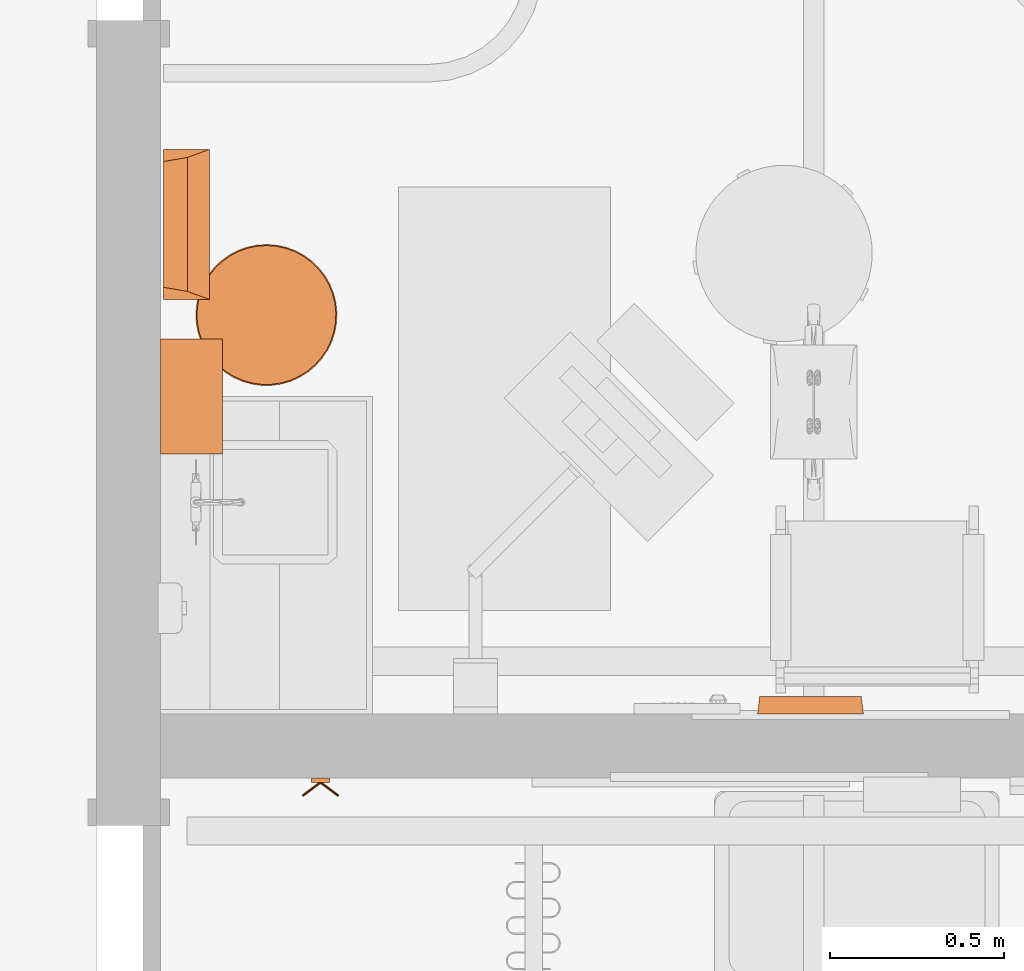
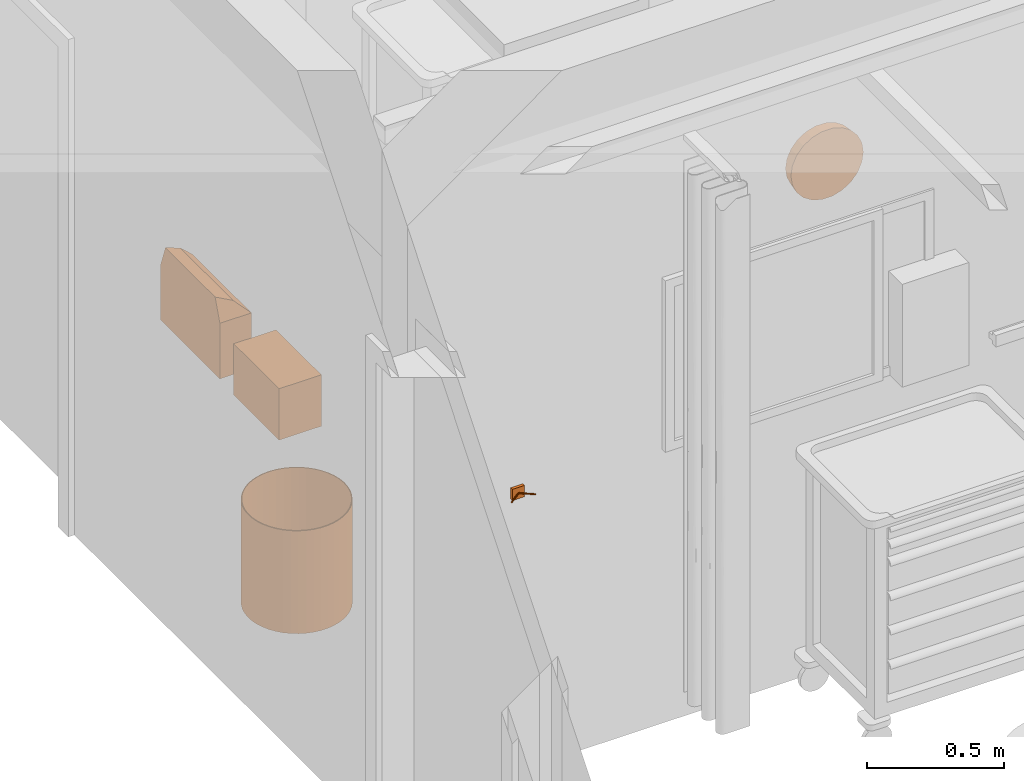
# One storey, part 131 of 142: 5 proxies.
"""IFC2X3 building model written with IfcOpenShell, lengths in feet."""

from ifc_helpers import new_model, entity, si_unit, converted_unit, derived_unit, direction, frame, frame_2d, origin, origin_2d_with_axis, place, context, subcontext, project, spatial, rectangle, circle, hollow_circle, extrude, faceted_brep, source, transform, mapped, type_object, type_shapes, element, save


model = new_model("IFC2X3")

# Units and contexts
model_context = context("Model", 3, precision=0.0001, world=origin(), true_north=direction((6.12303176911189e-17, 1.0)))
body_context = subcontext(model_context, "Body", "Model", "MODEL_VIEW")
ifc_project = project(units=[converted_unit("LENGTHUNIT", "FOOT", entity("IfcRatioMeasure", 0.3048), si_unit("LENGTHUNIT", "METRE"), dimensions=[1, 0, 0, 0, 0, 0, 0]), converted_unit("AREAUNIT", "SQUARE FOOT", entity("IfcRatioMeasure", 0.09290304), si_unit("AREAUNIT", "SQUARE_METRE"), dimensions=[2, 0, 0, 0, 0, 0, 0]), converted_unit("VOLUMEUNIT", "CUBIC FOOT", entity("IfcRatioMeasure", 0.028316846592), si_unit("VOLUMEUNIT", "CUBIC_METRE"), dimensions=[3, 0, 0, 0, 0, 0, 0]), converted_unit("PLANEANGLEUNIT", "DEGREE", entity("IfcRatioMeasure", 0.0174532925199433), si_unit("PLANEANGLEUNIT", "RADIAN"), dimensions=[0, 0, 0, 0, 0, 0, 0]), si_unit("MASSUNIT", "GRAM", prefix="KILO"), derived_unit("MASSDENSITYUNIT", [(si_unit("MASSUNIT", "GRAM", prefix="KILO"), 1), (si_unit("LENGTHUNIT", "METRE"), -3)]), si_unit("TIMEUNIT", "SECOND"), si_unit("FREQUENCYUNIT", "HERTZ"), si_unit("THERMODYNAMICTEMPERATUREUNIT", "DEGREE_CELSIUS"), derived_unit("THERMALTRANSMITTANCEUNIT", [(si_unit("MASSUNIT", "GRAM", prefix="KILO"), 1), (si_unit("THERMODYNAMICTEMPERATUREUNIT", "KELVIN"), -1), (si_unit("TIMEUNIT", "SECOND"), -3)]), derived_unit("VOLUMETRICFLOWRATEUNIT", [(si_unit("LENGTHUNIT", "METRE"), 3), (si_unit("TIMEUNIT", "SECOND"), -1)]), si_unit("ELECTRICCURRENTUNIT", "AMPERE"), si_unit("ELECTRICVOLTAGEUNIT", "VOLT"), si_unit("POWERUNIT", "WATT"), si_unit("FORCEUNIT", "NEWTON"), si_unit("ILLUMINANCEUNIT", "LUX"), si_unit("LUMINOUSFLUXUNIT", "LUMEN"), si_unit("LUMINOUSINTENSITYUNIT", "CANDELA"), derived_unit("USERDEFINED", [(si_unit("MASSUNIT", "GRAM", prefix="KILO"), -1), (si_unit("LENGTHUNIT", "METRE"), -2), (si_unit("TIMEUNIT", "SECOND"), 3), (si_unit("LUMINOUSFLUXUNIT", "LUMEN"), 1)]), derived_unit("LINEARVELOCITYUNIT", [(si_unit("LENGTHUNIT", "METRE"), 1), (si_unit("TIMEUNIT", "SECOND"), -1)]), si_unit("PRESSUREUNIT", "PASCAL"), derived_unit("USERDEFINED", [(si_unit("LENGTHUNIT", "METRE"), -2), (si_unit("MASSUNIT", "GRAM", prefix="KILO"), 1), (si_unit("TIMEUNIT", "SECOND"), -2)])], contexts=[model_context])

# Site, building, storey, space
site_placement = place(None, origin())
site = spatial("IfcSite", under=ifc_project, at=site_placement, Name="Default", CompositionType="ELEMENT")
building_placement = place(site_placement, origin())
building = spatial("IfcBuilding", under=site, at=building_placement, Name="OUTPATIENT / PACT CLINIC (Ch. 265)", CompositionType="ELEMENT")
storey_placement = place(building_placement, origin())
storey = spatial("IfcBuildingStorey", under=building, at=storey_placement, Name="LEVEL 1", CompositionType="ELEMENT", Elevation=0.0)
space_1_placement = place(storey_placement, origin())
space_1 = spatial("IfcSpace", under=storey, at=space_1_placement, Name="EXPA1", CompositionType="ELEMENT", InteriorOrExteriorSpace="INTERNAL")

# Proxies
building_element_proxy_type_1 = type_object("IfcBuildingElementProxyType", Name="F2000 - Basket, Wastepaper", PredefinedType="NOTDEFINED")
shared_shape_1 = source(origin(), body_context, "Body", "SweptSolid", [
    extrude(circle(Radius=0.666666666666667, at=frame_2d((0.0, -1.07702971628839e-15), x_axis=(1.0, 0.0))), origin(), (0.0, 0.0, 1.0), 0.0104166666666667),
    extrude(hollow_circle(Radius=0.666666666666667, WallThickness=0.0104166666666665, at=frame_2d((0.0, -1.07702971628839e-15), x_axis=(1.0, 0.0))), frame((0.0, 0.0, 0.0104166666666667)), (0.0, 0.0, 1.0), 1.48958333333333),
])
type_shapes(building_element_proxy_type_1, [shared_shape_1])
proxy_1_placement = place(space_1_placement, frame((436.254976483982, -889.255552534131, 0.0), z_axis=(0.0, 0.0, 1.0), x_axis=(0.0, 1.0, 0.0)))
element("IfcBuildingElementProxy", 1, at=proxy_1_placement, inside=space_1, type_object=building_element_proxy_type_1, Name="F2000 - Basket, Wastepaper:F2000 - Basket, Wastepaper", ObjectType="F2000 - Basket, Wastepaper", context=body_context, shape_type="MappedRepresentation", body=[
    mapped(shared_shape_1, transform((0.0, 0.0, 0.0), scale=1.0)),
])
building_element_proxy_type_2 = type_object("IfcBuildingElementProxyType", Name="A5108 - Waste Disposal Unit, Sharps 17\"x 13\"", PredefinedType="NOTDEFINED")
shared_shape_2 = source(origin(), body_context, "Body", "Brep", [
    faceted_brep([(0.70833333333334, 0.0, 0.0), (-0.708333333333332, 0.0, 0.0), (-0.708333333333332, 0.437500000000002, 0.0), (0.70833333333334, 0.437500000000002, 0.0), (0.70833333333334, 0.437500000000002, 0.810989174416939), (0.70833333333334, 0.0025667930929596, 0.810989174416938), (0.70833333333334, 0.0, 0.808422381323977), (-0.708333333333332, 0.437500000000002, 0.810989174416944), (-0.594042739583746, 0.437500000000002, 1.125), (0.594042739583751, 0.437500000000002, 1.125), (-0.708333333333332, 0.0, 0.808422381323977), (-0.708333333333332, 0.00256679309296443, 0.810989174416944), (0.632497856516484, 0.210923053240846, 1.01934543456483), (-0.632497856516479, 0.210923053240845, 1.01934543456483)], [[[0, 1, 2, 3]], [[0, 3, 4, 5, 6]], [[3, 2, 7, 8, 9, 4]], [[2, 1, 10, 11, 7]], [[1, 0, 6, 10]], [[10, 6, 5, 12, 13, 11]], [[12, 9, 8, 13]], [[5, 4, 9, 12]], [[8, 7, 11, 13]]]),
])
type_shapes(building_element_proxy_type_2, [shared_shape_2])
proxy_2_placement = place(storey_placement, frame((435.718518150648, -888.399555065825, 3.5), z_axis=(0.0, 0.0, 1.0), x_axis=(0.0, 1.0, 0.0)))
element("IfcBuildingElementProxy", 2, at=proxy_2_placement, inside=storey, type_object=building_element_proxy_type_2, Name="A5108 - Waste Disposal Unit, Sharps1:A5108 - Waste Disposal Unit, Sharps 17\"x 13\"", ObjectType="A5108 - Waste Disposal Unit, Sharps 17\"x 13\"", context=body_context, shape_type="MappedRepresentation", body=[
    mapped(shared_shape_2, transform((0.0, 0.0, 0.0), scale=1.0)),
])
building_element_proxy_type_3 = type_object("IfcBuildingElementProxyType", Name="A5080 - Dispenser, Paper Towel", PredefinedType="NOTDEFINED")
shared_shape_3 = source(origin(), body_context, "Body", "SweptSolid", [
    extrude(rectangle(XDim=0.58333333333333, YDim=1.08333333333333, at=frame_2d((9.99200722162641e-16, 0.0), x_axis=(1.0, 0.0))), frame((0.0, -0.291666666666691, 0.0), z_axis=(0.0, 0.0, 1.0), x_axis=(0.0, 1.0, 0.0)), (0.0, 0.0, 1.0), 0.75),
])
type_shapes(building_element_proxy_type_3, [shared_shape_3])
proxy_3_placement = place(space_1_placement, frame((435.254976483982, -890.024555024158, 3.5), z_axis=(0.0, 0.0, 1.0), x_axis=(0.0, 1.0, 0.0)))
element("IfcBuildingElementProxy", 3, at=proxy_3_placement, inside=space_1, type_object=building_element_proxy_type_3, Name="A5080 - Dispenser, Paper Towel:A5080 - Dispenser, Paper Towel", ObjectType="A5080 - Dispenser, Paper Towel", context=body_context, shape_type="MappedRepresentation", body=[
    mapped(shared_shape_3, transform((0.0, 0.0, 0.0), scale=1.0)),
])
building_element_proxy_type_4 = type_object("IfcBuildingElementProxyType", Name="F3200 - Clock, Battery, 12in Dia", PredefinedType="NOTDEFINED")
shared_shape_4 = source(origin(), body_context, "Body", "Brep", [
    faceted_brep([(0.0527623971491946, -0.166666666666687, -0.0087350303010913), (0.143371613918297, -0.166666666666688, 0.0607918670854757), (0.212898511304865, -0.16666666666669, 0.151401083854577), (0.256604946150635, -0.166666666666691, 0.256917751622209), (0.271512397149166, -0.166666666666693, 0.370151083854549), (0.256604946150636, -0.166666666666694, 0.483384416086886), (0.212898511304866, -0.166666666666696, 0.588901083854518), (0.143371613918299, -0.166666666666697, 0.67951030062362), (0.052762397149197, -0.166666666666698, 0.749037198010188), (-0.0527542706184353, -0.166666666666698, 0.792743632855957), (-0.165987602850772, -0.166666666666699, 0.807651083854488), (-0.279220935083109, -0.166666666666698, 0.792743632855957), (-0.384737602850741, -0.166666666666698, 0.749037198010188), (-0.475346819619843, -0.166666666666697, 0.679510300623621), (-0.544873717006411, -0.166666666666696, 0.588901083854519), (-0.588580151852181, -0.166666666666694, 0.483384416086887), (-0.603487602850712, -0.166666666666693, 0.37015108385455), (-0.588580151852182, -0.166666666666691, 0.256917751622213), (-0.544873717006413, -0.16666666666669, 0.151401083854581), (-0.475346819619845, -0.166666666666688, 0.0607918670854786), (-0.384737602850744, -0.166666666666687, -0.0087350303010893), (-0.279220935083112, -0.166666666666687, -0.052441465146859), (-0.165987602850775, -0.166666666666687, -0.0673489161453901), (-0.0527542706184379, -0.166666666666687, -0.0524414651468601), (0.256604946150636, -0.145833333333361, 0.483384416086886), (0.271512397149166, -0.145833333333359, 0.370151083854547), (0.256604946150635, -0.145833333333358, 0.256917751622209), (0.212898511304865, -0.145833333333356, 0.151401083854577), (0.143371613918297, -0.145833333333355, 0.0607918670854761), (0.0527623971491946, -0.145833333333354, -0.00873503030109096), (-0.0527542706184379, -0.145833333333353, -0.0524414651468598), (-0.165987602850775, -0.145833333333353, -0.0673489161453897), (-0.279220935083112, -0.145833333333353, -0.0524414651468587), (-0.384737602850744, -0.145833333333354, -0.00873503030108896), (-0.475346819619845, -0.145833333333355, 0.060791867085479), (-0.544873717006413, -0.145833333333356, 0.151401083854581), (-0.588580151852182, -0.145833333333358, 0.256917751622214), (-0.603487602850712, -0.145833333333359, 0.37015108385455), (-0.588580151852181, -0.145833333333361, 0.483384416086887), (-0.544873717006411, -0.145833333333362, 0.588901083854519), (-0.475346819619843, -0.145833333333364, 0.679510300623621), (-0.384737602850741, -0.145833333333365, 0.749037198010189), (-0.279220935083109, -0.145833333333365, 0.792743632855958), (-0.165987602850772, -0.145833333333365, 0.807651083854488), (-0.0527542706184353, -0.145833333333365, 0.792743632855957), (0.052762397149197, -0.145833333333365, 0.749037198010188), (0.143371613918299, -0.145833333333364, 0.67951030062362), (0.212898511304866, -0.145833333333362, 0.588901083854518)], [[[0, 1, 2, 3, 4, 5, 6, 7, 8, 9, 10, 11, 12, 13, 14, 15, 16, 17, 18, 19, 20, 21, 22, 23]], [[24, 25, 26, 27, 28, 29, 30, 31, 32, 33, 34, 35, 36, 37, 38, 39, 40, 41, 42, 43, 44, 45, 46, 47]], [[36, 17, 16, 37]], [[35, 18, 17, 36]], [[20, 19, 34, 33]], [[35, 34, 19, 18]], [[21, 20, 33, 32]], [[22, 21, 32, 31]], [[30, 23, 22, 31]], [[29, 0, 23, 30]], [[2, 1, 28, 27]], [[29, 28, 1, 0]], [[3, 2, 27, 26]], [[4, 3, 26, 25]], [[24, 5, 4, 25]], [[47, 6, 5, 24]], [[8, 7, 46, 45]], [[47, 46, 7, 6]], [[9, 8, 45, 44]], [[10, 9, 44, 43]], [[11, 10, 43, 42]], [[12, 11, 42, 41]], [[14, 39, 38, 15]], [[15, 38, 37, 16]], [[12, 41, 40, 13]], [[40, 39, 14, 13]]]),
    faceted_brep([(-0.493417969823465, 0.0, -0.00772370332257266), (-0.586614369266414, 0.0, 0.0998306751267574), (-0.165987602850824, 0.0, 0.370151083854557), (-0.373695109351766, 0.0, -0.0846649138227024), (-0.645734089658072, 0.0, 0.229284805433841), (-0.665987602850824, 0.0, 0.370151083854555), (-0.645734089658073, 0.0, 0.51101736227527), (-0.586614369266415, 0.0, 0.640471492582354), (-0.493417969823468, 0.0, 0.748025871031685), (-0.373695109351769, 0.0, 0.824967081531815), (-0.237145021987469, 0.0, 0.865061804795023), (-0.0948301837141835, 0.0, 0.865061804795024), (0.0417199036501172, 0.0, 0.824967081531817), (0.161442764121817, 0.0, 0.748025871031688), (0.254639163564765, 0.0, 0.640471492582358), (0.313758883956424, 0.0, 0.511017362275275), (0.334012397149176, 0.0, 0.370151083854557), (0.313758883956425, 0.0, 0.229284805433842), (0.254639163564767, 0.0, 0.0998306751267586), (0.161442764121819, 0.0, -0.00772370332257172), (0.0417199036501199, 0.0, -0.0846649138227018), (-0.0948301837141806, 0.0, -0.124759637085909), (-0.237145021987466, 0.0, -0.124759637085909), (-0.165987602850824, -0.145833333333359, 0.370151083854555), (-0.534036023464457, -0.145833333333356, 0.133620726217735), (-0.452489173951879, -0.145833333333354, 0.0395106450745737), (-0.585765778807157, -0.145833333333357, 0.246893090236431), (-0.347731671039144, -0.145833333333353, -0.0278129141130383), (-0.228250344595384, -0.145833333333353, -0.0628957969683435), (-0.603487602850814, -0.145833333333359, 0.370151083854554), (-0.103724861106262, -0.145833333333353, -0.0628957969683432), (0.0157564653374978, -0.145833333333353, -0.0278129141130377), (0.120513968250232, -0.145833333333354, 0.0395106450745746), (0.20206081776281, -0.145833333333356, 0.133620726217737), (0.253790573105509, -0.145833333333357, 0.246893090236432), (0.271512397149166, -0.145833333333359, 0.370151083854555), (-0.585765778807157, -0.145833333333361, 0.493409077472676), (-0.534036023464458, -0.145833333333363, 0.606681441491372), (-0.452489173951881, -0.145833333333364, 0.700791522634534), (-0.347731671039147, -0.145833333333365, 0.768115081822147), (-0.228250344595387, -0.145833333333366, 0.803197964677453), (0.253790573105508, -0.145833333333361, 0.49340907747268), (0.202060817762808, -0.145833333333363, 0.606681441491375), (0.12051396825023, -0.145833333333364, 0.700791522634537), (0.0157564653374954, -0.145833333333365, 0.768115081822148), (-0.103724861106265, -0.145833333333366, 0.803197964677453), (0.253790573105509, -0.166666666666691, 0.246893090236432), (0.271512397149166, -0.166666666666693, 0.370151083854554), (0.20206081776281, -0.166666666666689, 0.133620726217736), (-0.103724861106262, -0.166666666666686, -0.0628957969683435), (0.0157564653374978, -0.166666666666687, -0.0278129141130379), (0.120513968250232, -0.166666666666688, 0.0395106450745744), (-0.228250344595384, -0.166666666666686, -0.0628957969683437), (-0.452489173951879, -0.166666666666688, 0.0395106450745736), (-0.347731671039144, -0.166666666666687, -0.0278129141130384), (-0.603487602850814, -0.166666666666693, 0.370151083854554), (-0.585765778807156, -0.166666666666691, 0.246893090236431), (-0.534036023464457, -0.166666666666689, 0.133620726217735), (-0.585765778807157, -0.166666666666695, 0.493409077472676), (-0.534036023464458, -0.166666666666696, 0.606681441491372), (-0.347731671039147, -0.166666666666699, 0.768115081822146), (-0.452489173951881, -0.166666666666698, 0.700791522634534), (-0.228250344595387, -0.166666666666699, 0.803197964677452), (-0.103724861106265, -0.166666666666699, 0.803197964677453), (0.0157564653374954, -0.166666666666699, 0.768115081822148), (0.12051396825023, -0.166666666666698, 0.700791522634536), (0.253790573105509, -0.166666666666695, 0.493409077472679), (0.202060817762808, -0.166666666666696, 0.606681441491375), (-0.62574465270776, -0.166666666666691, 0.235154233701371), (-0.64515426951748, -0.166666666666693, 0.370151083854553), (-0.569088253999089, -0.166666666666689, 0.111094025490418), (-0.479775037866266, -0.166666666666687, 0.00802107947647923), (-0.365040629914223, -0.166666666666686, -0.0657142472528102), (-0.234180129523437, -0.166666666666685, -0.104138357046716), (-0.0977950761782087, -0.166666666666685, -0.104138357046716), (0.0330654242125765, -0.166666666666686, -0.0657142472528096), (0.147799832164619, -0.166666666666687, 0.00802107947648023), (0.237113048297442, -0.166666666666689, 0.11109402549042), (0.293769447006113, -0.166666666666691, 0.235154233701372), (0.313179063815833, -0.166666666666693, 0.370151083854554), (0.293769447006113, -0.166666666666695, 0.50514793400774), (0.237113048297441, -0.166666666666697, 0.629208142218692), (0.147799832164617, -0.166666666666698, 0.732281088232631), (0.0330654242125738, -0.1666666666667, 0.80601641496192), (-0.0977950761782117, -0.1666666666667, 0.844440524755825), (-0.23418012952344, -0.1666666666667, 0.844440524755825), (-0.365040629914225, -0.1666666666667, 0.806016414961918), (-0.479775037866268, -0.166666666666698, 0.732281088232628), (-0.569088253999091, -0.166666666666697, 0.629208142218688), (-0.625744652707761, -0.166666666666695, 0.505147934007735)], [[[0, 1, 2]], [[0, 2, 3]], [[4, 2, 1]], [[2, 4, 5]], [[5, 6, 2]], [[2, 6, 7]], [[2, 7, 8]], [[2, 8, 9]], [[9, 10, 2]], [[11, 2, 10]], [[2, 11, 12]], [[2, 12, 13]], [[14, 2, 13]], [[2, 14, 15]], [[15, 16, 2]], [[2, 16, 17]], [[2, 17, 18]], [[18, 19, 2]], [[19, 20, 2]], [[21, 2, 20]], [[2, 21, 22]], [[22, 3, 2]], [[23, 24, 25]], [[24, 23, 26]], [[27, 23, 25]], [[23, 27, 28]], [[29, 26, 23]], [[28, 30, 23]], [[31, 23, 30]], [[23, 31, 32]], [[23, 32, 33]], [[33, 34, 23]], [[34, 35, 23]], [[23, 36, 29]], [[37, 36, 23]], [[38, 37, 23]], [[39, 38, 23]], [[23, 40, 39]], [[23, 35, 41]], [[41, 42, 23]], [[43, 23, 42]], [[43, 44, 23]], [[44, 45, 23]], [[40, 23, 45]], [[46, 47, 35, 34]], [[46, 34, 33, 48]], [[31, 30, 49, 50]], [[32, 31, 50, 51]], [[51, 48, 33, 32]], [[30, 28, 52, 49]], [[27, 25, 53, 54]], [[28, 27, 54, 52]], [[29, 55, 56, 26]], [[26, 56, 57, 24]], [[24, 57, 53, 25]], [[55, 29, 36, 58]], [[58, 36, 37, 59]], [[60, 61, 38, 39]], [[59, 37, 38, 61]], [[39, 40, 62, 60]], [[40, 45, 63, 62]], [[64, 63, 45, 44]], [[64, 44, 43, 65]], [[41, 35, 47, 66]], [[42, 41, 66, 67]], [[67, 65, 43, 42]], [[68, 55, 69]], [[56, 55, 68]], [[68, 70, 56]], [[70, 57, 56]], [[71, 57, 70]], [[57, 71, 53]], [[72, 53, 71]], [[54, 53, 72]], [[72, 73, 54]], [[73, 52, 54]], [[49, 52, 73]], [[73, 74, 49]], [[74, 50, 49]], [[75, 50, 74]], [[50, 75, 51]], [[76, 51, 75]], [[48, 51, 76]], [[76, 77, 48]], [[77, 46, 48]], [[78, 46, 77]], [[46, 78, 47]], [[78, 79, 47]], [[79, 80, 47]], [[66, 47, 80]], [[80, 81, 66]], [[66, 81, 67]], [[82, 67, 81]], [[67, 82, 65]], [[65, 82, 83]], [[64, 65, 83]], [[83, 84, 64]], [[64, 84, 63]], [[85, 63, 84]], [[63, 85, 62]], [[62, 85, 60]], [[86, 60, 85]], [[60, 86, 61]], [[61, 86, 87]], [[59, 61, 87]], [[87, 88, 59]], [[59, 88, 58]], [[89, 58, 88]], [[55, 89, 69]], [[58, 89, 55]], [[78, 17, 16, 79]], [[77, 18, 17, 78]], [[19, 76, 75, 20]], [[77, 76, 19, 18]], [[20, 75, 74, 21]], [[74, 73, 22, 21]], [[22, 73, 72, 3]], [[0, 3, 72, 71]], [[4, 1, 70, 68]], [[70, 1, 0, 71]], [[5, 4, 68, 69]], [[89, 6, 5, 69]], [[88, 7, 6, 89]], [[8, 87, 86, 9]], [[88, 87, 8, 7]], [[9, 86, 85, 10]], [[85, 84, 11, 10]], [[83, 12, 11, 84]], [[82, 13, 12, 83]], [[14, 81, 80, 15]], [[82, 81, 14, 13]], [[15, 80, 79, 16]]]),
])
type_shapes(building_element_proxy_type_4, [shared_shape_4])
proxy_4_placement = place(space_1_placement, frame((441.228934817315, -893.024555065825, 6.50000000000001), z_axis=(0.0, 0.0, 1.0), x_axis=(-1.0, 0.0, 0.0)))
element("IfcBuildingElementProxy", 4, at=proxy_4_placement, inside=space_1, type_object=building_element_proxy_type_4, Name="F3200 - Clock, Battery, 12in Dia:F3200 - Clock, Battery, 12in Dia", ObjectType="F3200 - Clock, Battery, 12in Dia", context=body_context, shape_type="MappedRepresentation", body=[
    mapped(shared_shape_4, transform((0.0, 0.0, 0.0), scale=1.0)),
])

# Space
space_2_placement = place(storey_placement, origin())
space_2 = spatial("IfcSpace", under=storey, at=space_2_placement, Name="EXPA1", CompositionType="ELEMENT", InteriorOrExteriorSpace="INTERNAL")

# Proxy
building_element_proxy_type_5 = type_object("IfcBuildingElementProxyType", Name="A5145 - Hook, Garment, Double", PredefinedType="NOTDEFINED")
shared_shape_5 = source(origin(), body_context, "Body", "SweptSolid", [
    extrude(circle(Radius=0.0105952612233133, at=frame_2d((-1.64551454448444e-31, -4.16333634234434e-17), x_axis=(1.0, 0.0))), frame((-0.169086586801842, -0.168481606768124, 0.0833333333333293), z_axis=(0.799999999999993, 0.60000000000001, 0.0), x_axis=(0.60000000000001, -0.799999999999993, 0.0)), (0.0, 0.0, 1.0), 0.211358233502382),
    extrude(circle(Radius=0.0105952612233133, at=frame_2d((5.2041704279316e-19, 2.77555756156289e-17), x_axis=(1.0, 0.0))), frame((0.0, -0.0416666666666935, 0.083333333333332), z_axis=(0.799999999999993, -0.60000000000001, 0.0), x_axis=(-0.60000000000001, -0.799999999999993, 0.0)), (0.0, 0.0, 1.0), 0.211358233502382),
    extrude(rectangle(XDim=0.0416666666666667, YDim=0.166666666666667, at=origin_2d_with_axis()), frame((0.0, -0.0208333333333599, 0.0), z_axis=(0.0, 0.0, 1.0), x_axis=(0.0, 1.0, 0.0)), (0.0, 0.0, 1.0), 0.166666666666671),
])
type_shapes(building_element_proxy_type_5, [shared_shape_5])
proxy_5_placement = place(space_2_placement, frame((436.765393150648, -893.628851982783, 4.0)))
element("IfcBuildingElementProxy", 5, at=proxy_5_placement, inside=space_2, type_object=building_element_proxy_type_5, Name="A5145 - Hook, Garment, Double:A5145 - Hook, Garment, Double", ObjectType="A5145 - Hook, Garment, Double", context=body_context, shape_type="MappedRepresentation", body=[
    mapped(shared_shape_5, transform((0.0, 0.0, 0.0), scale=1.0)),
])

save(model, "model.ifc")
